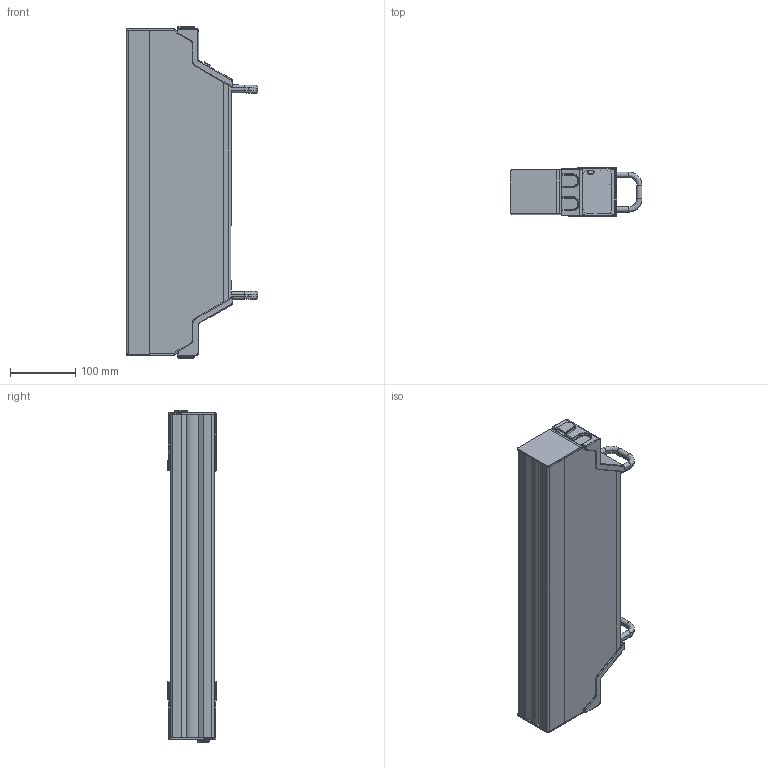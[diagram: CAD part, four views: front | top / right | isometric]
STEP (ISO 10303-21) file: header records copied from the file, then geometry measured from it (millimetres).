
FILE_DESCRIPTION((''),'2;1');
FILE_NAME('JDC_LINE500_NEU_SW0001','2020-05-06T14:40:40',('fw'),(''),'CREO PARAMETRIC BY PTC INC, 2018260','CREO PARAMETRIC BY PTC INC, 2018260','');
FILE_SCHEMA(('AUTOMOTIVE_DESIGN { 1 0 10303 214 1 1 1 1 }'));
Length unit declared in the file: millimetre
Products named in the file (1): JDC_LINE500_NEU_SW0001
Bounding box: 201.46 x 73.84 x 507.21 mm (x, y, z)
Surface area: 340932.6 mm2 (no closed solid volume)
Topology: 0 solids, 46 shells, 528 faces, 1777 edges, 1253 vertices
Faces by surface type: cylinder 208, plane 192, torus 72, bspline 27, sphere 16, cone 13
Entity records: 24784 total; most frequent: CARTESIAN_POINT 6554, DIRECTION 3141, ORIENTED_EDGE 2780, EDGE_CURVE 1761, VERTEX_POINT 1253, AXIS2_PLACEMENT_3D 1136, VECTOR 869, LINE 869
